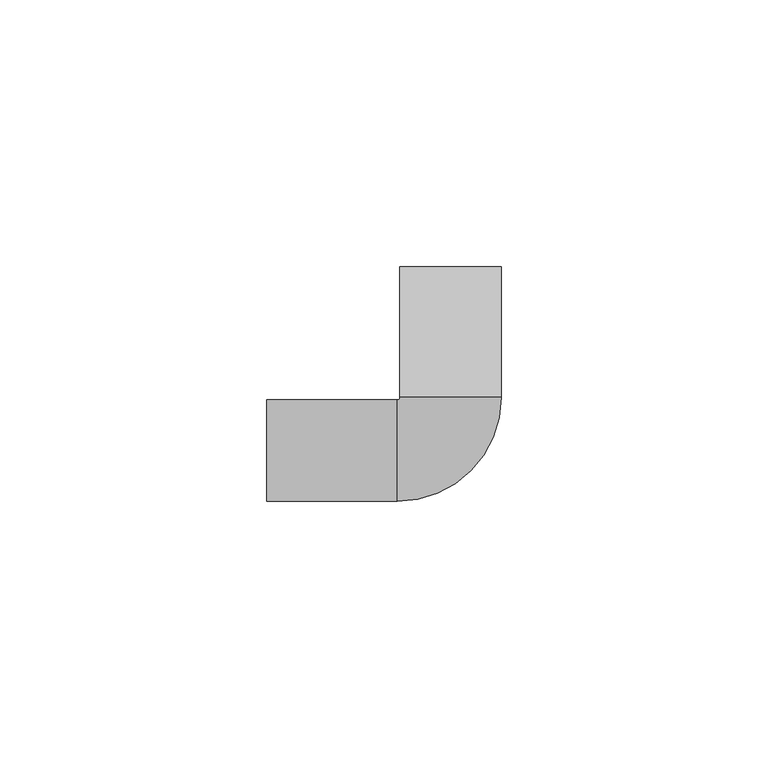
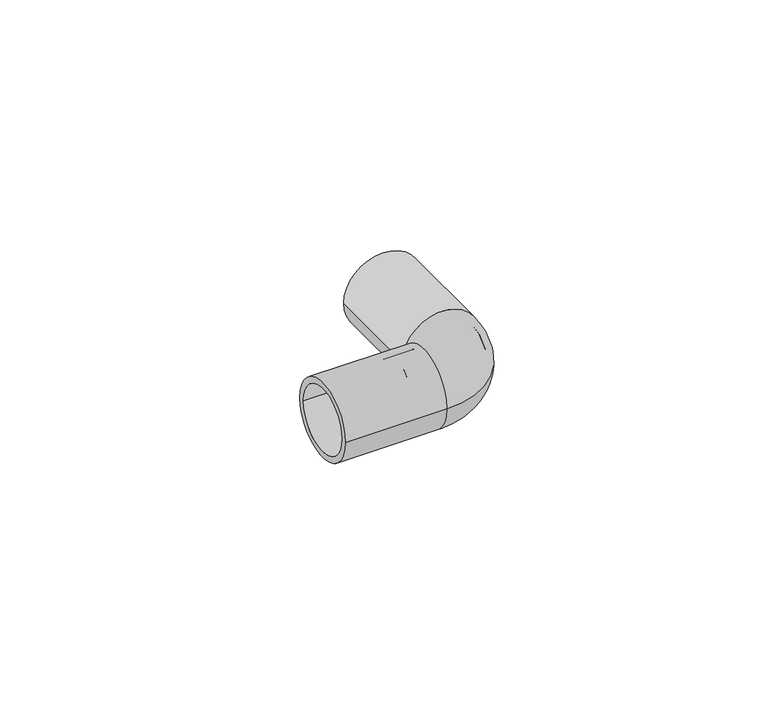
"""IFC4 building model written with IfcOpenShell, lengths in millimetres: cable carrier fitting geometry."""

from ifc_helpers import new_model, si_unit, point, frame, origin, place, context, project, spatial, polyline, circle_curve, ellipse_curve, trimmed, source, transform, mapped, element, save
from ifc_brep_helpers import plane_surface, cylinder_surface, revolved_surface, advanced_brep


def cable_carrier_fitting_d353317e(model_context):
    return source(origin(), model_context, "Body", "AdvancedBrep", [
        advanced_brep(
        [(8.0, 10.0, 0.0), (-10.0, -8.0, 0.0), (-10.0, 8.0, 0.0), (-8.0, 10.0, 0.0), (9.5, 10.0, 0.0), (-10.0, -9.5, 0.0), (-10.0, 9.5, 0.0), (-9.5, 10.0, 0.0), (9.5, 34.5, 0.0), (-9.5, 34.5, 0.0), (8.0, 34.5, 0.0), (-8.0, 34.5, 0.0), (-34.5, -9.5, 0.0), (-34.5, 9.5, 0.0), (-34.5, -8.0, 0.0), (-34.5, 8.0, 0.0)],
        [
            (0, 1, circle_curve(frame((-10.0, 10.0, 0.0), z_axis=(0.0, 0.0, -1.0), x_axis=(0.0, -1.0, 0.0)), 18.0)),
            (1, 2, circle_curve(frame((-10.0, 0.0, 0.0), z_axis=(-1.0, 0.0, 0.0), x_axis=(0.0, 1.0, 0.0)), 8.0)),
            (2, 3, circle_curve(frame((-10.0, 10.0, 0.0), z_axis=(0.0, 0.0, 1.0), x_axis=(0.0, -1.0, 0.0)), 2.0)),
            (3, 0, circle_curve(frame((0.0, 10.0, 0.0), z_axis=(0.0, 1.0, 0.0), x_axis=(-1.0, 0.0, 0.0)), 8.0)),
            (0, 3, circle_curve(frame((0.0, 10.0, 0.0), z_axis=(0.0, 1.0, 0.0), x_axis=(-1.0, 0.0, 0.0)), 8.0)),
            (2, 1, circle_curve(frame((-10.0, 0.0, 0.0), z_axis=(-1.0, 0.0, 0.0), x_axis=(0.0, 1.0, 0.0)), 8.0)),
            (4, 5, circle_curve(frame((-10.0, 10.0, 0.0), z_axis=(0.0, 0.0, -1.0), x_axis=(0.0, -1.0, 0.0)), 19.5)),
            (5, 6, circle_curve(frame((-10.0, 0.0, 0.0), z_axis=(1.0, 0.0, 0.0), x_axis=(0.0, 1.0, 0.0)), 9.5)),
            (6, 7, circle_curve(frame((-10.0, 10.0, 0.0), z_axis=(0.0, 0.0, 1.0), x_axis=(0.0, -1.0, 0.0)), 0.5)),
            (7, 4, circle_curve(frame((0.0, 10.0, 0.0), z_axis=(0.0, -1.0, 0.0), x_axis=(-1.0, 0.0, 0.0)), 9.5)),
            (4, 7, circle_curve(frame((0.0, 10.0, 0.0), z_axis=(0.0, -1.0, 0.0), x_axis=(-1.0, 0.0, 0.0)), 9.5)),
            (6, 5, circle_curve(frame((-10.0, 0.0, 0.0), z_axis=(1.0, 0.0, 0.0), x_axis=(0.0, 1.0, 0.0)), 9.5)),
            (8, 9, circle_curve(frame((0.0, 34.5, 0.0), z_axis=(0.0, 1.0, 0.0), x_axis=(-1.0, 0.0, 0.0)), 9.5)),
            (9, 8, circle_curve(frame((0.0, 34.5, 0.0), z_axis=(0.0, 1.0, 0.0), x_axis=(-1.0, 0.0, 0.0)), 9.5)),
            (10, 11, circle_curve(frame((0.0, 34.5, 0.0), z_axis=(0.0, -1.0, 0.0), x_axis=(-1.0, 0.0, 0.0)), 8.0)),
            (11, 10, circle_curve(frame((0.0, 34.5, 0.0), z_axis=(0.0, -1.0, 0.0), x_axis=(-1.0, 0.0, 0.0)), 8.0)),
            (9, 7),
            (4, 8),
            (11, 3),
            (0, 10),
            (12, 13, circle_curve(frame((-34.5, 0.0, 0.0), z_axis=(-1.0, 0.0, 0.0), x_axis=(0.0, 1.0, 0.0)), 9.5)),
            (13, 12, circle_curve(frame((-34.5, 0.0, 0.0), z_axis=(-1.0, 0.0, 0.0), x_axis=(0.0, 1.0, 0.0)), 9.5)),
            (14, 15, circle_curve(frame((-34.5, 0.0, 0.0), z_axis=(1.0, 0.0, 0.0), x_axis=(0.0, 1.0, 0.0)), 8.0)),
            (15, 14, circle_curve(frame((-34.5, 0.0, 0.0), z_axis=(1.0, 0.0, 0.0), x_axis=(0.0, 1.0, 0.0)), 8.0)),
            (15, 2),
            (1, 14),
            (13, 6),
            (5, 12),
        ],
        [
            revolved_surface(trimmed(ellipse_curve(frame((-10.0, 0.0, 0.0), z_axis=(1.0, 0.0, 0.0), x_axis=(0.0, 1.0, 0.0)), 8.0, 8.0), [point((-10.0, 8.0, 0.0))], [point((-10.0, -8.0, 0.0))], True, "CARTESIAN"), (-10.0, 10.0, 0.0), (0.0, 0.0, 1.0)),
            revolved_surface(trimmed(ellipse_curve(frame((-10.0, 0.0, 0.0), z_axis=(1.0, 0.0, 0.0), x_axis=(0.0, 1.0, 0.0)), 8.0, 8.0), [point((-10.0, -8.0, 0.0))], [point((-10.0, 8.0, 0.0))], True, "CARTESIAN"), (-10.0, 10.0, 0.0), (0.0, 0.0, 1.0)),
            revolved_surface(trimmed(ellipse_curve(frame((-10.0, 0.0, 0.0), z_axis=(-1.0, 0.0, 0.0), x_axis=(0.0, 1.0, 0.0)), 9.5, 9.5), [point((-10.0, 9.5, 0.0))], [point((-10.0, -9.5, 0.0))], True, "CARTESIAN"), (-10.0, 10.0, 0.0), (0.0, 0.0, 1.0)),
            revolved_surface(trimmed(ellipse_curve(frame((-10.0, 0.0, 0.0), z_axis=(-1.0, 0.0, 0.0), x_axis=(0.0, 1.0, 0.0)), 9.5, 9.5), [point((-10.0, -9.5, 0.0))], [point((-10.0, 9.5, 0.0))], True, "CARTESIAN"), (-10.0, 10.0, 0.0), (0.0, 0.0, 1.0)),
            plane_surface(frame((0.0, 34.5, 0.0), z_axis=(0.0, 1.0, 0.0), x_axis=(0.0, 0.0, 1.0))),
            cylinder_surface(frame((0.0, 10.0, 0.0), z_axis=(0.0, -1.0, 0.0), x_axis=(-1.0, 0.0, 0.0)), 9.5),
            revolved_surface(polyline([(-8.0, 34.5, 0.0), (-8.0, 10.0, 0.0)]), (0.0, 10.0, 0.0), (0.0, 1.0, 0.0)),
            plane_surface(frame((-34.5, 0.0, 0.0), z_axis=(-1.0, 0.0, 0.0), x_axis=(0.0, 0.0, 1.0))),
            revolved_surface(polyline([(-10.0, 8.0, 0.0), (-34.5, 8.0, 0.0)]), (-34.5, 0.0, 0.0), (1.0, 0.0, 0.0)),
            cylinder_surface(frame((-34.5, 0.0, 0.0), z_axis=(-1.0, 0.0, 0.0), x_axis=(0.0, 1.0, 0.0)), 9.5),
        ],
        [
            (0, [[1, 2, 3, 4]]),
            (1, [[-1, 5, -3, 6]]),
            (2, [[7, 8, 9, 10]]),
            (3, [[-7, 11, -9, 12]]),
            (4, [[13, 14], [15, 16]]),
            (5, [[-14, 17, -11, 18]]),
            (5, [[-13, -18, -10, -17]]),
            (6, [[-16, 19, -5, 20]]),
            (6, [[-15, -20, -4, -19]]),
            (7, [[21, 22], [23, 24]]),
            (8, [[-24, 25, -2, 26]]),
            (8, [[-23, -26, -6, -25]]),
            (9, [[-22, 27, -8, 28]]),
            (9, [[-21, -28, -12, -27]]),
        ],
    ),
    ])


if __name__ == "__main__":
    model = new_model("IFC4")
    model_context = context("Model", 3, world=origin())
    ifc_project = project(units=[si_unit("LENGTHUNIT", "METRE", prefix="MILLI")], contexts=[model_context])
    site = spatial("IfcSite", under=ifc_project)
    building = spatial("IfcBuilding", under=site)
    placement = place(None, origin())
    cable_carrier_fitting_shape = cable_carrier_fitting_d353317e(model_context)
    element("IfcCableCarrierFitting", 1, at=placement, inside=building, context=model_context, shape_type="MappedRepresentation", body=[
        mapped(cable_carrier_fitting_shape, transform((0.0, 0.0, 0.0), x_axis=(1.0, 0.0, 0.0), y_axis=(0.0, 1.0, 0.0), z_axis=(0.0, 0.0, 1.0))),
    ])
    save(model, "model.ifc")
